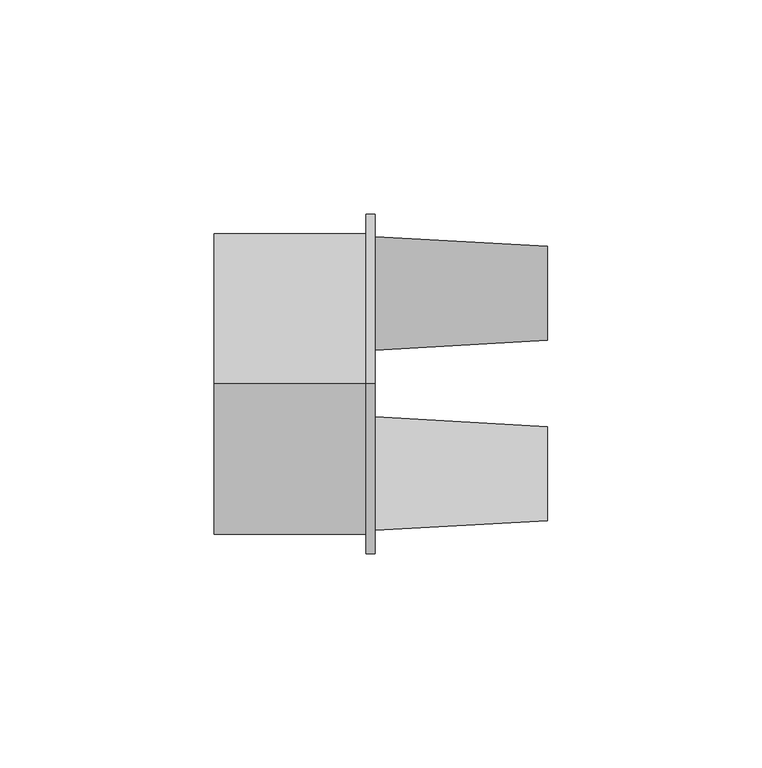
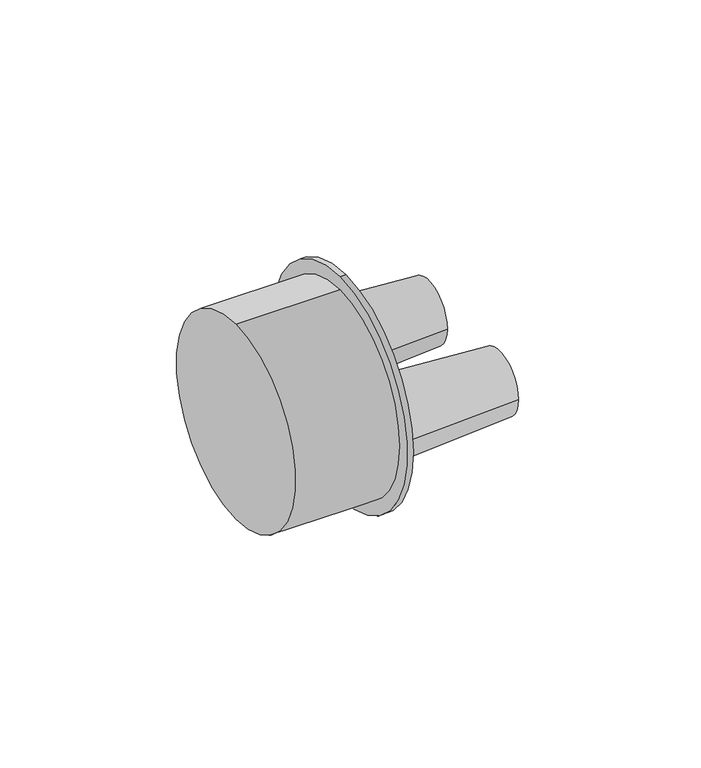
"""IFC4 building model written with IfcOpenShell, lengths in millimetres: pipe fitting geometry, PIF_KW PP napowietrzacz comfort_Pipelife : KW PP napowietrzacz, szary (DN75-110)."""

from ifc_helpers import new_model, si_unit, point, frame, origin, origin_2d, place, context, project, spatial, polyline, circle_curve, trimmed, segment, composite_curve, outline, extrude, source, transform, mapped, element, save
from ifc_brep_helpers import plane_surface, revolved_surface, advanced_brep


def pipe_fitting_d12cad92(model_context):
    return source(origin(), model_context, "Body", "SolidModel", [
        advanced_brep(
        [(42.5, -21.05, 0.0), (42.5, -32.0166667, 0.0), (42.5, -10.0833333, 0.0), (2.1, -34.3166667, 0.0), (2.1, -7.7833333, 0.0), (2.1, -21.05, 0.0)],
        [
            (0, 1),
            (1, 2, circle_curve(frame((42.5, -21.05, 0.0), z_axis=(1.0, 0.0, 0.0), x_axis=(0.0, -1.0, 0.0)), 10.9666667)),
            (2, 0),
            (2, 1, circle_curve(frame((42.5, -21.05, 0.0), z_axis=(1.0, 0.0, 0.0), x_axis=(0.0, -1.0, 0.0)), 10.9666667)),
            (1, 3),
            (3, 4, circle_curve(frame((2.1, -21.05, 0.0), z_axis=(1.0, 0.0, 0.0), x_axis=(0.0, -1.0, 0.0)), 13.2666667)),
            (4, 2),
            (4, 3, circle_curve(frame((2.1, -21.05, 0.0), z_axis=(1.0, 0.0, 0.0), x_axis=(0.0, -1.0, 0.0)), 13.2666667)),
            (3, 5),
            (5, 4),
        ],
        [
            plane_surface(frame((42.5, -21.05, 0.0), z_axis=(1.0, 0.0, 0.0), x_axis=(0.0, -1.0, 0.0))),
            revolved_surface(polyline([(2.1, -34.3166667, 0.0), (42.5, -32.0166667, 0.0)]), (64.1972496, -21.05, 0.0), (1.0, 0.0, 0.0)),
            plane_surface(frame((2.1, -21.05, 0.0), z_axis=(-1.0, 0.0, 0.0), x_axis=(0.0, -1.0, 0.0))),
        ],
        [
            (0, [[1, 2, 3]]),
            (0, [[-3, 4, -1]]),
            (1, [[-2, 5, 6, 7]]),
            (1, [[-4, -7, 8, -5]]),
            (2, [[-6, 9, 10]]),
            (2, [[-8, -10, -9]]),
        ],
    ),
        advanced_brep(
        [(42.5, 10.0833333, 0.0), (42.5, 32.0166667, 0.0), (42.5, 21.05, 0.0), (2.1, 7.7833333, 0.0), (2.1, 34.3166667, 0.0), (2.1, 21.05, 0.0)],
        [
            (0, 1, circle_curve(frame((42.5, 21.05, 0.0), z_axis=(1.0, 0.0, 0.0), x_axis=(0.0, 1.0, 0.0)), 10.9666667)),
            (1, 2),
            (2, 0),
            (1, 0, circle_curve(frame((42.5, 21.05, 0.0), z_axis=(1.0, 0.0, 0.0), x_axis=(0.0, 1.0, 0.0)), 10.9666667)),
            (3, 4, circle_curve(frame((2.1, 21.05, 0.0), z_axis=(1.0, 0.0, 0.0), x_axis=(0.0, 1.0, 0.0)), 13.2666667)),
            (4, 1),
            (0, 3),
            (4, 3, circle_curve(frame((2.1, 21.05, 0.0), z_axis=(1.0, 0.0, 0.0), x_axis=(0.0, 1.0, 0.0)), 13.2666667)),
            (5, 4),
            (3, 5),
        ],
        [
            plane_surface(frame((42.5, 21.05, 0.0), z_axis=(1.0, 0.0, 0.0), x_axis=(0.0, 1.0, 0.0))),
            revolved_surface(polyline([(42.5, 32.0166667, 0.0), (2.1, 34.3166667, 0.0)]), (64.1972496, 21.05, 0.0), (-1.0, 0.0, 0.0)),
            plane_surface(frame((2.1, 21.05, 0.0), z_axis=(-1.0, 0.0, 0.0), x_axis=(0.0, 1.0, 0.0))),
        ],
        [
            (0, [[1, 2, 3]]),
            (0, [[4, -3, -2]]),
            (1, [[5, 6, -1, 7]]),
            (1, [[8, -7, -4, -6]]),
            (2, [[9, -5, 10]]),
            (2, [[-10, -8, -9]]),
        ],
    ),
        extrude(outline(composite_curve([segment(trimmed(circle_curve(origin_2d(), 35.15), [point((0.0, -35.15))], [point((0.0, 35.15))], False, "CARTESIAN"), True, "CONTINUOUS"), segment(trimmed(circle_curve(origin_2d(), 35.15), [point((0.0, 35.15))], [point((0.0, -35.15))], False, "CARTESIAN"), True, "CONTINUOUS")], self_intersect=False)), frame((-35.5, 0.0, 0.0), z_axis=(1.0, 0.0, 0.0), x_axis=(0.0, 1.0, 0.0)), (0.0, 0.0, 1.0), 35.5),
        extrude(outline(composite_curve([segment(trimmed(circle_curve(origin_2d(), 39.8), [point((0.0, -39.8))], [point((0.0, 39.8))], False, "CARTESIAN"), True, "CONTINUOUS"), segment(trimmed(circle_curve(origin_2d(), 39.8), [point((0.0, 39.8))], [point((0.0, -39.8))], False, "CARTESIAN"), True, "CONTINUOUS")], self_intersect=False)), frame((0.0, 0.0, 0.0), z_axis=(1.0, 0.0, 0.0), x_axis=(0.0, 1.0, 0.0)), (0.0, 0.0, 1.0), 2.1),
    ])


if __name__ == "__main__":
    model = new_model("IFC4")
    model_context = context("Model", 3, world=origin())
    ifc_project = project(units=[si_unit("LENGTHUNIT", "METRE", prefix="MILLI")], contexts=[model_context])
    site = spatial("IfcSite", under=ifc_project)
    building = spatial("IfcBuilding", under=site)
    placement = place(None, origin())
    pipe_fitting_shape = pipe_fitting_d12cad92(model_context)
    element("IfcPipeFitting", 1, ObjectType="PIF_KW PP napowietrzacz comfort_Pipelife : KW PP napowietrzacz, szary (DN75-110)", at=placement, inside=building, context=model_context, shape_type="MappedRepresentation", body=[
        mapped(pipe_fitting_shape, transform((0.0, 0.0, 0.0), x_axis=(1.0, 0.0, 0.0), y_axis=(0.0, 1.0, 0.0), z_axis=(0.0, 0.0, 1.0))),
    ])
    save(model, "model.ifc")
